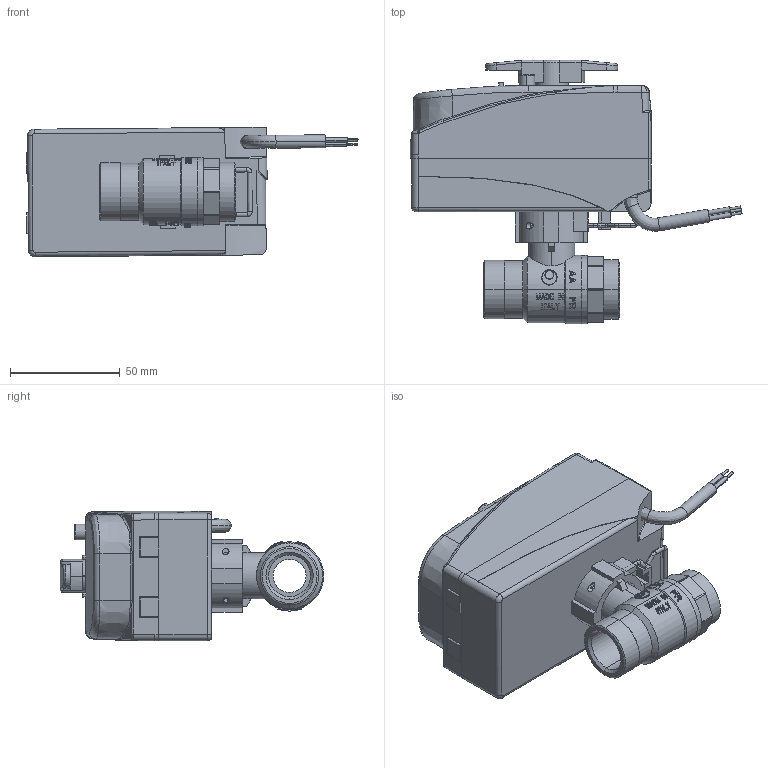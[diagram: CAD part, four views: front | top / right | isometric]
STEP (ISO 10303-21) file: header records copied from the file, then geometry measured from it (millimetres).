
FILE_DESCRIPTION (( 'STEP AP214' ), '1' );
FILE_NAME ('9022100.STEP', '2023-05-11T11:08:43', ( '' ), ( '' ), 'SwSTEP 2.0', 'SolidWorks 2022', '' );
FILE_SCHEMA (( 'AUTOMOTIVE_DESIGN' ));
Length unit declared in the file: millimetre
Products named in the file (16): 14440; 244705410_1; KABL; 359600005_1; DN15-IVR-220-FISRT_ASM_1_ASM; 244705150_1; 356003116_1; 130795_ROCICA_EMV_9XX_DIV; S9_POK_OH_K_RI_KP_MODRA; Z7_06_52_5; EMV110_9GI0_M_ASM_ASM; VZMET_1_3; 9022100; und_part; GUMB_ROC_IZKL_EMV110_9FR0_4; EMV110_9GI0_M_ASM_7_ASM
Assembly tree (15 placements, depth 5):
  9022100
    DN15-IVR-220-FISRT_ASM_1_ASM
      244705410_1
      356003116_1
      359600005_1
      244705150_1
    14440
      EMV110_9GI0_M_ASM_ASM
        EMV110_9GI0_M_ASM_7_ASM
          Z7_06_52_5
          VZMET_1_3
          GUMB_ROC_IZKL_EMV110_9FR0_4
      S9_POK_OH_K_RI_KP_MODRA
      130795_ROCICA_EMV_9XX_DIV
      KABL
      und_part
Bounding box: 150.96 x 119.72 x 58.94 mm (x, y, z)
Volume: 192005.9 mm3; surface area: 89752.5 mm2
Topology: 10 solids, 12 shells, 2437 faces, 6577 edges, 4299 vertices
Faces by surface type: plane 1778, cylinder 389, bspline 210, cone 56, torus 4
Entity records: 98897 total; most frequent: CARTESIAN_POINT 29115, ORIENTED_EDGE 13098, DIRECTION 11103, EDGE_CURVE 6558, LINE 4651, VECTOR 4651, VERTEX_POINT 4299, AXIS2_PLACEMENT_3D 3226
